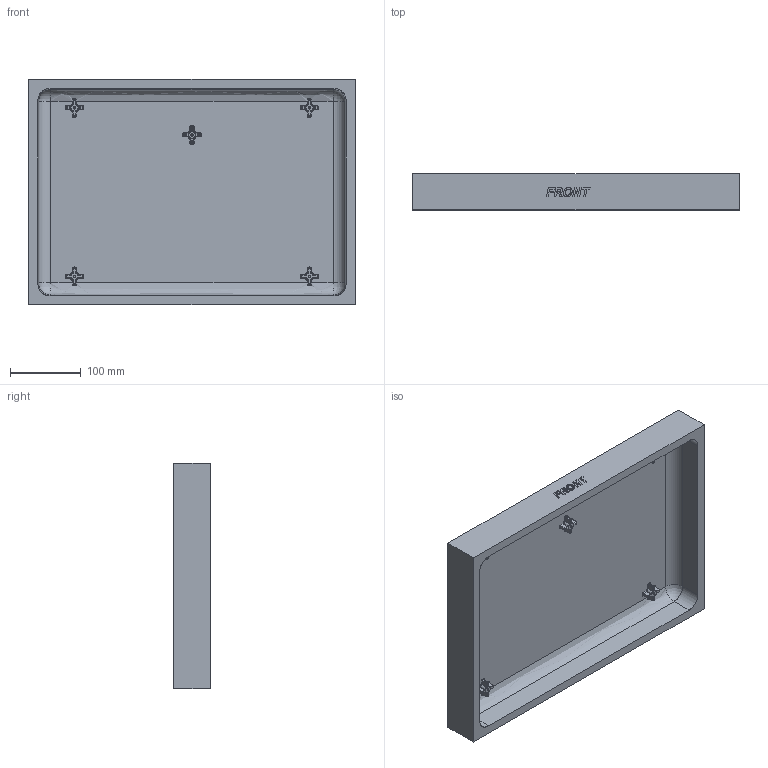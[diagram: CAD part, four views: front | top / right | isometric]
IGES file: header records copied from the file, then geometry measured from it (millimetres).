
Start section: SolidWorks IGES file using analytic representation for surfaces
Global section: file name: C:\working\Internal Geometry for WEB\1501-931T-CLR.IGS; native system: SolidWorks 2006 by SolidWorks Corporation; preprocessor: SolidWorks 2006 by SolidWorks Corporation; author: shuerta; date: 061204.084724; units: inch
Bounding box: 460.37 x 50.8 x 318.51 mm (x, y, z)
Surface area: 428945.1 mm2 (no closed solid volume)
Topology: 0 solids, 0 shells, 611 faces, 4968 edges, 4968 vertices
Faces by surface type: bspline 380, revolution 231
